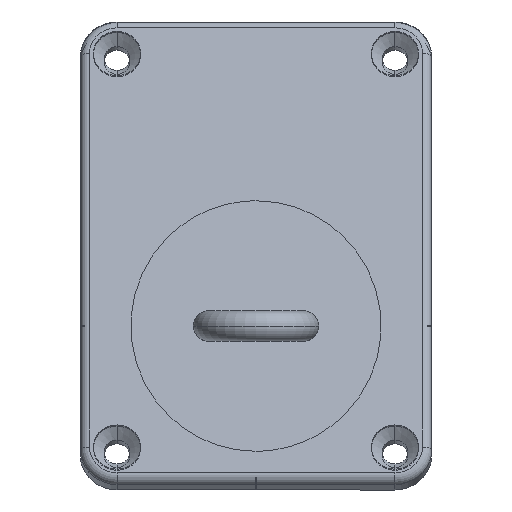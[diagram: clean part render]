
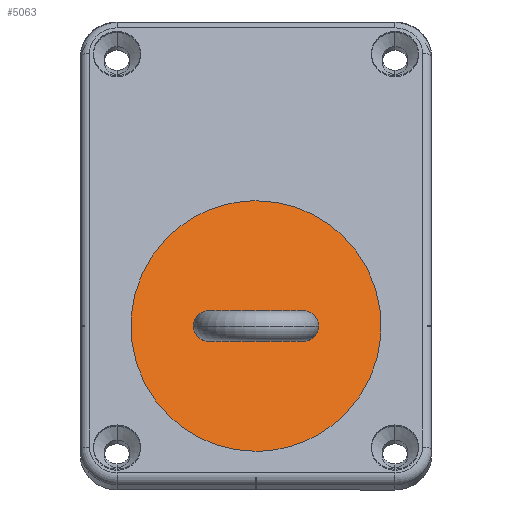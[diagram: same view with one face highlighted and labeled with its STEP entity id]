
A CAD part, left-side view. The second image highlights one B-rep face of the part: STEP entity #5063.
In plain terms, the highlighted planar face has unit normal (-0.934, 0, 0.358).
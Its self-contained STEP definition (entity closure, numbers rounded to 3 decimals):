
#95 = CARTESIAN_POINT ( 'NONE',  ( 6.935, 82., 41. ) ) ;
#137 = CARTESIAN_POINT ( 'NONE',  ( -4.965, -20.5, 10. ) ) ;
#511 = CARTESIAN_POINT ( 'NONE',  ( 6.935, -82., 41. ) ) ;
#635 = CARTESIAN_POINT ( 'NONE',  ( -8.803, 10.5, 0. ) ) ;
#678 = CARTESIAN_POINT ( 'NONE',  ( -8.803, 20.5, 0. ) ) ;
#1176 = DIRECTION ( 'NONE',  ( -0.358, 0., -0.934 ) ) ;
#1248 = CARTESIAN_POINT ( 'NONE',  ( 6.935, 0., 41. ) ) ;
#1423 = EDGE_CURVE ( 'NONE', #4761, #9107, #7905, .T. ) ;
#1457 = CARTESIAN_POINT ( 'NONE',  ( -12.642, 10.5, -10. ) ) ;
#1575 = EDGE_LOOP ( 'NONE', ( #3697, #2228 ) ) ;
#2200 = EDGE_LOOP ( 'NONE', ( #8981, #6272 ) ) ;
#2228 = ORIENTED_EDGE ( 'NONE', *, *, #1423, .T. ) ;
#2301 = CARTESIAN_POINT ( 'NONE',  ( -8.803, 10.5, 0. ) ) ;
#2369 = CARTESIAN_POINT ( 'NONE',  ( -24.542, -82., -41. ) ) ;
#2415 = EDGE_CURVE ( 'NONE', #5764, #4407, #8219, .T. ) ;
#2590 = EDGE_CURVE ( 'NONE', #7260, #6138, #3354, .T. ) ;
#2597 = CARTESIAN_POINT ( 'NONE',  ( -4.965, -10.5, 10. ) ) ;
#2946 = CARTESIAN_POINT ( 'NONE',  ( -8.803, -10.5, 0. ) ) ;
#3061 = CARTESIAN_POINT ( 'NONE',  ( -8.803, 20.5, 0. ) ) ;
#3354 =( BOUNDED_CURVE ( )  B_SPLINE_CURVE ( 3, ( #2946, #6115, #8906, #9415 ),
 .UNSPECIFIED., .F., .F. ) 
 B_SPLINE_CURVE_WITH_KNOTS ( ( 4, 4 ),
 ( 1.571, 4.712 ),
 .UNSPECIFIED. ) 
 CURVE ( )  GEOMETRIC_REPRESENTATION_ITEM ( )  RATIONAL_B_SPLINE_CURVE ( ( 1., 0.333, 0.333, 1. ) ) 
 REPRESENTATION_ITEM ( '' )  );
#3399 = EDGE_CURVE ( 'NONE', #4407, #5764, #6249, .T. ) ;
#3697 = ORIENTED_EDGE ( 'NONE', *, *, #7513, .T. ) ;
#3955 = CARTESIAN_POINT ( 'NONE',  ( -24.542, 0., -41. ) ) ;
#4215 = CARTESIAN_POINT ( 'NONE',  ( -24.542, 0., -41. ) ) ;
#4407 = VERTEX_POINT ( 'NONE', #8369 ) ;
#4740 = CARTESIAN_POINT ( 'NONE',  ( -12.642, 20.5, -10. ) ) ;
#4761 = VERTEX_POINT ( 'NONE', #7207 ) ;
#5063 = ADVANCED_FACE ( 'NONE', ( #5832, #7886, #7288 ), #10115, .F. ) ;
#5764 = VERTEX_POINT ( 'NONE', #7863 ) ;
#5832 = FACE_BOUND ( 'NONE', #1575, .T. ) ;
#5835 = CARTESIAN_POINT ( 'NONE',  ( -8.803, -20.5, 0. ) ) ;
#6011 = CARTESIAN_POINT ( 'NONE',  ( -8.803, -20.5, 0. ) ) ;
#6036 = DIRECTION ( 'NONE',  ( 0.934, 0., -0.358 ) ) ;
#6097 = AXIS2_PLACEMENT_3D ( 'NONE', #10150, #6036, #1176 ) ;
#6115 = CARTESIAN_POINT ( 'NONE',  ( -12.642, -10.5, -10. ) ) ;
#6138 = VERTEX_POINT ( 'NONE', #6011 ) ;
#6249 =( BOUNDED_CURVE ( )  B_SPLINE_CURVE ( 3, ( #4215, #7348, #95, #1248 ),
 .UNSPECIFIED., .F., .F. ) 
 B_SPLINE_CURVE_WITH_KNOTS ( ( 4, 4 ),
 ( 3.142, 6.283 ),
 .UNSPECIFIED. ) 
 CURVE ( )  GEOMETRIC_REPRESENTATION_ITEM ( )  RATIONAL_B_SPLINE_CURVE ( ( 1., 0.333, 0.333, 1. ) ) 
 REPRESENTATION_ITEM ( '' )  );
#6272 = ORIENTED_EDGE ( 'NONE', *, *, #2415, .F. ) ;
#6735 =( BOUNDED_CURVE ( )  B_SPLINE_CURVE ( 3, ( #678, #9649, #7211, #2301 ),
 .UNSPECIFIED., .F., .F. ) 
 B_SPLINE_CURVE_WITH_KNOTS ( ( 4, 4 ),
 ( 4.712, 7.854 ),
 .UNSPECIFIED. ) 
 CURVE ( )  GEOMETRIC_REPRESENTATION_ITEM ( )  RATIONAL_B_SPLINE_CURVE ( ( 1., 0.333, 0.333, 1. ) ) 
 REPRESENTATION_ITEM ( '' )  );
#7207 = CARTESIAN_POINT ( 'NONE',  ( -8.803, 10.5, 0. ) ) ;
#7211 = CARTESIAN_POINT ( 'NONE',  ( -4.965, 10.5, 10. ) ) ;
#7217 = EDGE_LOOP ( 'NONE', ( #7297, #10147 ) ) ;
#7260 = VERTEX_POINT ( 'NONE', #10197 ) ;
#7288 = FACE_BOUND ( 'NONE', #7217, .T. ) ;
#7297 = ORIENTED_EDGE ( 'NONE', *, *, #2590, .F. ) ;
#7348 = CARTESIAN_POINT ( 'NONE',  ( -24.542, 82., -41. ) ) ;
#7513 = EDGE_CURVE ( 'NONE', #9107, #4761, #6735, .T. ) ;
#7863 = CARTESIAN_POINT ( 'NONE',  ( 6.935, 0., 41. ) ) ;
#7886 = FACE_OUTER_BOUND ( 'NONE', #2200, .T. ) ;
#7905 =( BOUNDED_CURVE ( )  B_SPLINE_CURVE ( 3, ( #635, #1457, #4740, #10485 ),
 .UNSPECIFIED., .F., .F. ) 
 B_SPLINE_CURVE_WITH_KNOTS ( ( 4, 4 ),
 ( 1.571, 4.712 ),
 .UNSPECIFIED. ) 
 CURVE ( )  GEOMETRIC_REPRESENTATION_ITEM ( )  RATIONAL_B_SPLINE_CURVE ( ( 1., 0.333, 0.333, 1. ) ) 
 REPRESENTATION_ITEM ( '' )  );
#8219 =( BOUNDED_CURVE ( )  B_SPLINE_CURVE ( 3, ( #8946, #511, #2369, #3955 ),
 .UNSPECIFIED., .F., .F. ) 
 B_SPLINE_CURVE_WITH_KNOTS ( ( 4, 4 ),
 ( 0., 3.142 ),
 .UNSPECIFIED. ) 
 CURVE ( )  GEOMETRIC_REPRESENTATION_ITEM ( )  RATIONAL_B_SPLINE_CURVE ( ( 1., 0.333, 0.333, 1. ) ) 
 REPRESENTATION_ITEM ( '' )  );
#8335 = CARTESIAN_POINT ( 'NONE',  ( -8.803, -10.5, 0. ) ) ;
#8369 = CARTESIAN_POINT ( 'NONE',  ( -24.542, 0., -41. ) ) ;
#8554 =( BOUNDED_CURVE ( )  B_SPLINE_CURVE ( 3, ( #5835, #137, #2597, #8335 ),
 .UNSPECIFIED., .F., .T. ) 
 B_SPLINE_CURVE_WITH_KNOTS ( ( 4, 4 ),
 ( 4.712, 7.854 ),
 .UNSPECIFIED. ) 
 CURVE ( )  GEOMETRIC_REPRESENTATION_ITEM ( )  RATIONAL_B_SPLINE_CURVE ( ( 1., 0.333, 0.333, 1. ) ) 
 REPRESENTATION_ITEM ( '' )  );
#8906 = CARTESIAN_POINT ( 'NONE',  ( -12.642, -20.5, -10. ) ) ;
#8946 = CARTESIAN_POINT ( 'NONE',  ( 6.935, 0., 41. ) ) ;
#8981 = ORIENTED_EDGE ( 'NONE', *, *, #3399, .F. ) ;
#9107 = VERTEX_POINT ( 'NONE', #3061 ) ;
#9318 = EDGE_CURVE ( 'NONE', #6138, #7260, #8554, .T. ) ;
#9415 = CARTESIAN_POINT ( 'NONE',  ( -8.803, -20.5, 0. ) ) ;
#9649 = CARTESIAN_POINT ( 'NONE',  ( -4.965, 20.5, 10. ) ) ;
#10115 = PLANE ( 'NONE',  #6097 ) ;
#10147 = ORIENTED_EDGE ( 'NONE', *, *, #9318, .F. ) ;
#10150 = CARTESIAN_POINT ( 'NONE',  ( 6.935, -41., 41. ) ) ;
#10197 = CARTESIAN_POINT ( 'NONE',  ( -8.803, -10.5, 0. ) ) ;
#10485 = CARTESIAN_POINT ( 'NONE',  ( -8.803, 20.5, 0. ) ) ;
